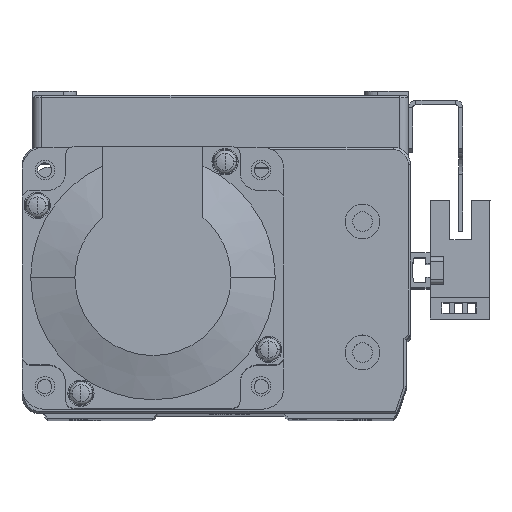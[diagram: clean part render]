
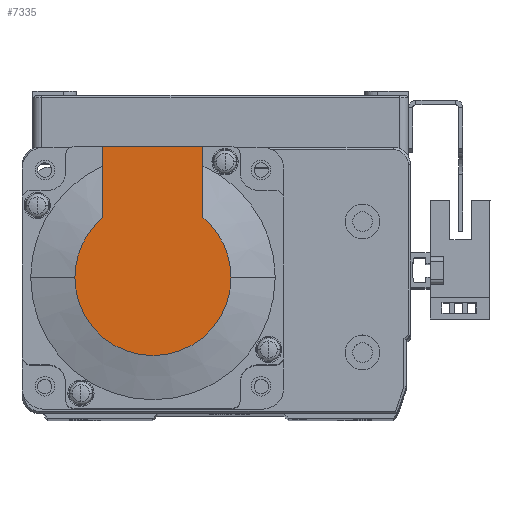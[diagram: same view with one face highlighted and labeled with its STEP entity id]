
A CAD part, top view. The second image highlights one B-rep face of the part: STEP entity #7335.
In plain terms, the highlighted planar face has unit normal (0, 0, 1) as drawn and (-1, 0, 0) by its records, which use the part's own axes.
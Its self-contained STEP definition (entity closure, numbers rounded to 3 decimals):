
#1834 = AXIS2_PLACEMENT_3D ( 'NONE', #27495, #27496, #27497 ) ;
#2184 = AXIS2_PLACEMENT_3D ( 'NONE', #22584, #22614, #22696 ) ;
#2710 = AXIS2_PLACEMENT_3D ( 'NONE', #18716, #18707, #18706 ) ;
#2715 = AXIS2_PLACEMENT_3D ( 'NONE', #18685, #18653, #18688 ) ;
#3277 = EDGE_LOOP ( 'NONE', ( #8464, #8433, #8448, #8428, #8435, #8368 ) ) ;
#7335 = ADVANCED_FACE ( 'NONE', ( #27737 ), #27505, .T. ) ;
#8368 = ORIENTED_EDGE ( 'NONE', *, *, #12928, .F. ) ;
#8428 = ORIENTED_EDGE ( 'NONE', *, *, #14266, .T. ) ;
#8433 = ORIENTED_EDGE ( 'NONE', *, *, #12858, .T. ) ;
#8435 = ORIENTED_EDGE ( 'NONE', *, *, #12902, .F. ) ;
#8448 = ORIENTED_EDGE ( 'NONE', *, *, #14253, .T. ) ;
#8464 = ORIENTED_EDGE ( 'NONE', *, *, #12903, .T. ) ;
#10016 = VERTEX_POINT ( 'NONE', #21928 ) ;
#10017 = VERTEX_POINT ( 'NONE', #21903 ) ;
#10072 = VERTEX_POINT ( 'NONE', #21983 ) ;
#10162 = VERTEX_POINT ( 'NONE', #22000 ) ;
#10245 = VERTEX_POINT ( 'NONE', #22147 ) ;
#10313 = VERTEX_POINT ( 'NONE', #22191 ) ;
#12858 = EDGE_CURVE ( 'NONE', #10162, #10017, #28403, .T. ) ;
#12902 = EDGE_CURVE ( 'NONE', #10245, #10016, #28445, .T. ) ;
#12903 = EDGE_CURVE ( 'NONE', #10313, #10162, #28441, .T. ) ;
#12928 = EDGE_CURVE ( 'NONE', #10313, #10245, #28478, .T. ) ;
#14253 = EDGE_CURVE ( 'NONE', #10017, #10072, #17834, .T. ) ;
#14266 = EDGE_CURVE ( 'NONE', #10072, #10016, #17832, .T. ) ;
#17832 = CIRCLE ( 'NONE', #2710, 17.881 ) ;
#17834 = CIRCLE ( 'NONE', #2715, 17.881 ) ;
#18653 = DIRECTION ( 'NONE',  ( -1., 0., 0. ) ) ;
#18685 = CARTESIAN_POINT ( 'NONE',  ( -99., 0., 0. ) ) ;
#18688 = DIRECTION ( 'NONE',  ( 0., 0., -1. ) ) ;
#18706 = DIRECTION ( 'NONE',  ( 0., 0., -1. ) ) ;
#18707 = DIRECTION ( 'NONE',  ( -1., 0., 0. ) ) ;
#18716 = CARTESIAN_POINT ( 'NONE',  ( -99., 0., 0. ) ) ;
#21903 = CARTESIAN_POINT ( 'NONE',  ( -99., 0., -17.881 ) ) ;
#21928 = CARTESIAN_POINT ( 'NONE',  ( -99., 13.735, 11.45 ) ) ;
#21983 = CARTESIAN_POINT ( 'NONE',  ( -99., 0., 17.881 ) ) ;
#22000 = CARTESIAN_POINT ( 'NONE',  ( -99., 13.735, -11.45 ) ) ;
#22147 = CARTESIAN_POINT ( 'NONE',  ( -99., 30., 11.45 ) ) ;
#22191 = CARTESIAN_POINT ( 'NONE',  ( -99., 30., -11.45 ) ) ;
#22584 = CARTESIAN_POINT ( 'NONE',  ( -99., 0., 0. ) ) ;
#22614 = DIRECTION ( 'NONE',  ( -1., 0., 0. ) ) ;
#22696 = DIRECTION ( 'NONE',  ( 0., 0., -1. ) ) ;
#22841 = CARTESIAN_POINT ( 'NONE',  ( -99., 0., 11.45 ) ) ;
#22846 = CARTESIAN_POINT ( 'NONE',  ( -99., -8.941, -11.45 ) ) ;
#22849 = DIRECTION ( 'NONE',  ( 0., -1., 0. ) ) ;
#22862 = DIRECTION ( 'NONE',  ( 0., -1., 0. ) ) ;
#27495 = CARTESIAN_POINT ( 'NONE',  ( -99., -8.941, 0. ) ) ;
#27496 = DIRECTION ( 'NONE',  ( -1., 0., 0. ) ) ;
#27497 = DIRECTION ( 'NONE',  ( 0., 0., 1. ) ) ;
#27505 = PLANE ( 'NONE',  #1834 ) ;
#27737 = FACE_OUTER_BOUND ( 'NONE', #3277, .T. ) ;
#28403 = CIRCLE ( 'NONE', #2184, 17.881 ) ;
#28441 = LINE ( 'NONE', #22846, #28460 ) ;
#28445 = LINE ( 'NONE', #22841, #28459 ) ;
#28459 = VECTOR ( 'NONE', #22849, 1000. ) ;
#28460 = VECTOR ( 'NONE', #22862, 1000. ) ;
#28469 = VECTOR ( 'NONE', #28752, 1000. ) ;
#28478 = LINE ( 'NONE', #28743, #28469 ) ;
#28743 = CARTESIAN_POINT ( 'NONE',  ( -99., 30., 25. ) ) ;
#28752 = DIRECTION ( 'NONE',  ( 0., 0., 1. ) ) ;
